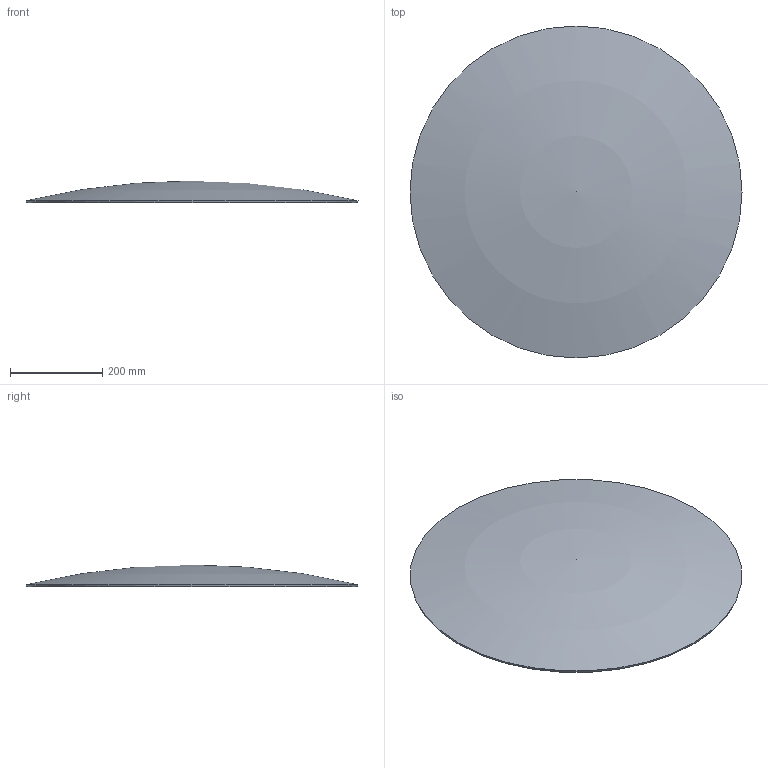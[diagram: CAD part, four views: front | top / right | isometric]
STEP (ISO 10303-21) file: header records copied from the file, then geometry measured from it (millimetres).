
FILE_DESCRIPTION( ( 'STEP AP214' ), '1' );
FILE_NAME( 'D:/Yug/2021/Delta/desk_and_office_organisation/QC/48534.stp', '2021-01-19T12:32:34', ( '' ), ( '' ), ' ', 'PARTsolutions', ' ' );
FILE_SCHEMA( ( 'AUTOMOTIVE_DESIGN { 1 0 10303 214 1 1 1 1 }' ) );
Length unit declared in the file: millimetre
Products named in the file (1): _48534
Bounding box: 720 x 720 x 47.55 mm (x, y, z)
Volume: 2057456.8 mm3; surface area: 834275.4 mm2
Topology: 1 solids, 1 shells, 3 faces, 9 edges, 6 vertices
Faces by surface type: sphere 2, cone 1
Entity records: 102 total; most frequent: DIRECTION 12, CARTESIAN_POINT 10, AXIS2_PLACEMENT_3D 6, EDGE_LOOP 4, VERTEX_POINT 4, ORIENTED_EDGE 4, STYLED_ITEM 3, PRESENTATION_STYLE_ASSIGNMENT 3
